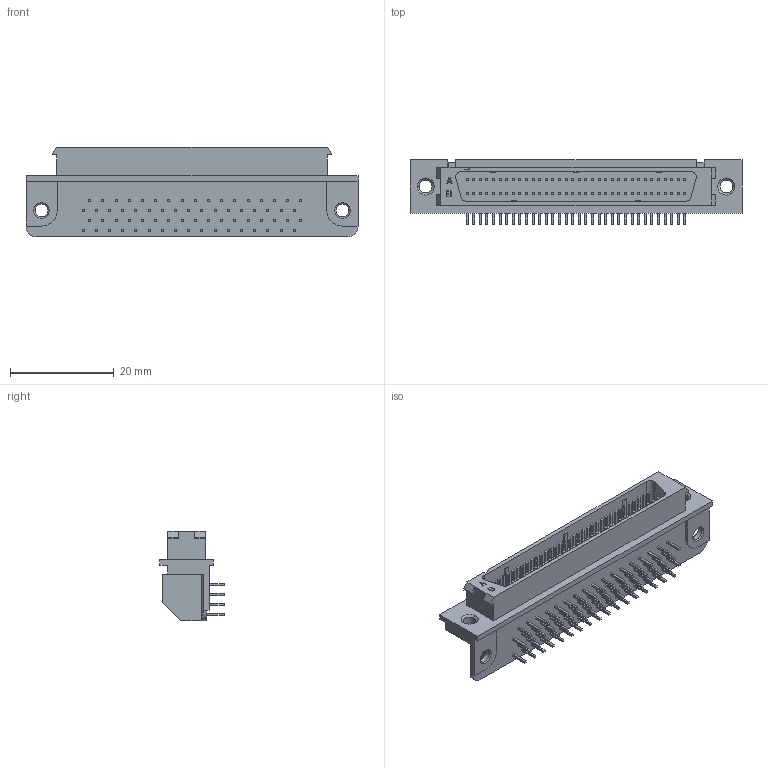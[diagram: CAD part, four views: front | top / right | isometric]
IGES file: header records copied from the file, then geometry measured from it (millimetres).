
Start section:  PTC IGES file: C-0174225-25-3-o-s.igs
Global section: file name: C-0174225-25-3-o-s.igs; native system: Pro/ENGINEER by Parametric Technology Corporation; preprocessor: 9906; author: amp11758; organization: Unknown; date: 000721.091320; units: millimetre
Bounding box: 63.91 x 12.4 x 17.3 mm (x, y, z)
Surface area: 5985.9 mm2 (no closed solid volume)
Topology: 0 solids, 0 shells, 1402 faces, 7494 edges, 7494 vertices
Faces by surface type: bspline 1233, revolution 169
